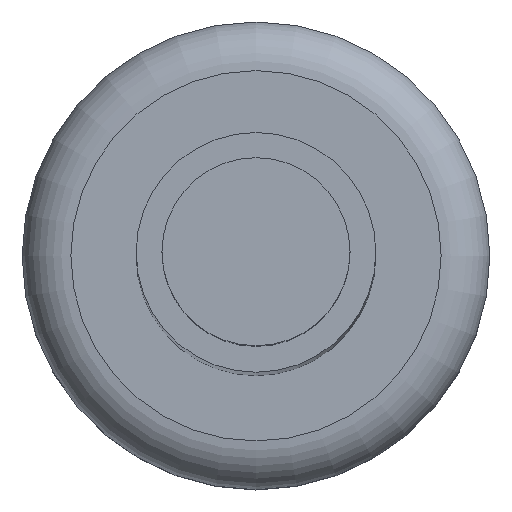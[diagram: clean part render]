
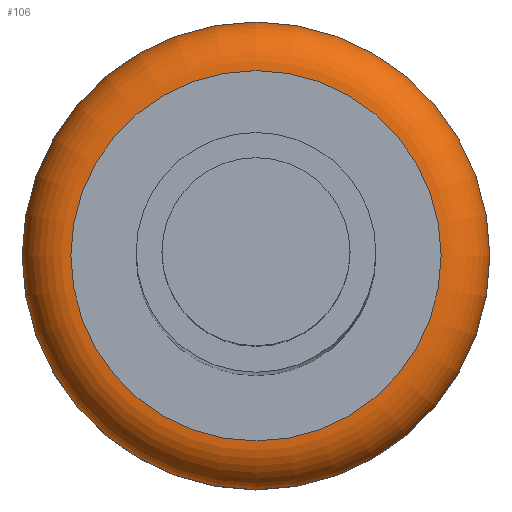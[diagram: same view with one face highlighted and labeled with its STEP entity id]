
A CAD part, top view. The second image highlights one B-rep face of the part: STEP entity #106.
In plain terms, the highlighted toroidal (fillet/blend) face has major radius 1.9 mm and minor radius 0.5 mm.
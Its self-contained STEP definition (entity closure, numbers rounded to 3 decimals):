
#35=TOROIDAL_SURFACE('',#280,1.9,0.5);
#106=ADVANCED_FACE('',(#124,#125),#35,.T.);
#124=FACE_BOUND('',#148,.T.);
#125=FACE_BOUND('',#149,.T.);
#148=EDGE_LOOP('',(#200));
#149=EDGE_LOOP('',(#201));
#200=ORIENTED_EDGE('',*,*,#225,.F.);
#201=ORIENTED_EDGE('',*,*,#226,.F.);
#205=VERTEX_POINT('',#359);
#206=VERTEX_POINT('',#362);
#225=EDGE_CURVE('',#205,#205,#251,.T.);
#226=EDGE_CURVE('',#206,#206,#252,.T.);
#251=CIRCLE('',#262,2.4);
#252=CIRCLE('',#264,1.9);
#262=AXIS2_PLACEMENT_3D('',#358,#293,#294);
#264=AXIS2_PLACEMENT_3D('',#361,#297,#298);
#280=AXIS2_PLACEMENT_3D('',#411,#347,#348);
#293=DIRECTION('',(0.,0.,-1.));
#294=DIRECTION('',(1.,0.,0.));
#297=DIRECTION('',(0.,0.,1.));
#298=DIRECTION('',(1.,0.,0.));
#347=DIRECTION('',(0.,0.,1.));
#348=DIRECTION('',(1.,0.,0.));
#358=CARTESIAN_POINT('',(-42.5,0.,1.95));
#359=CARTESIAN_POINT('',(-40.1,0.,1.95));
#361=CARTESIAN_POINT('',(-42.5,0.,2.45));
#362=CARTESIAN_POINT('',(-40.6,0.,2.45));
#411=CARTESIAN_POINT('',(-42.5,0.,1.95));
